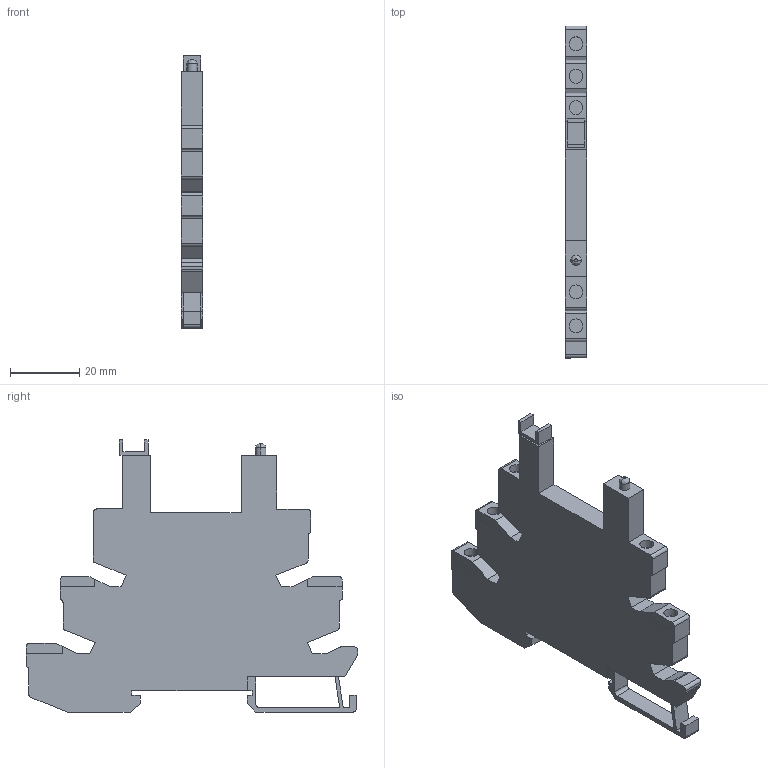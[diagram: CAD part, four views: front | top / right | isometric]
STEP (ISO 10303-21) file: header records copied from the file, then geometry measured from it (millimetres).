
FILE_DESCRIPTION((''),'2;1');
FILE_NAME('SSLZVA1-SCHNEIDERELECTRIC-3D-04','2025-11-26T11:36:58',('SESA407868'),('Schneider-Electric'),'CREO PARAMETRIC BY PTC INC, 2025093','CREO PARAMETRIC BY PTC INC, 2025093','');
FILE_SCHEMA(('AP242_MANAGED_MODEL_BASED_3D_ENGINEERING_MIM_LF { 1 0 10303 442 1 1 4 }'));
Length unit declared in the file: millimetre
Products named in the file (1): SSLZVA1-SCHNEIDERELECTRIC-3D-04
Bounding box: 6.2 x 96 x 78.7 mm (x, y, z)
Volume: 26331.3 mm3; surface area: 12071.7 mm2
Topology: 1 solids, 1 shells, 121 faces, 346 edges, 232 vertices
Faces by surface type: plane 89, cylinder 30, bspline 2
Entity records: 5186 total; most frequent: CARTESIAN_POINT 755, ORIENTED_EDGE 692, DIRECTION 648, PRESENTATION_STYLE_ASSIGNMENT 347, STYLED_ITEM 347, CURVE_STYLE 346, EDGE_CURVE 346, VECTOR 282
